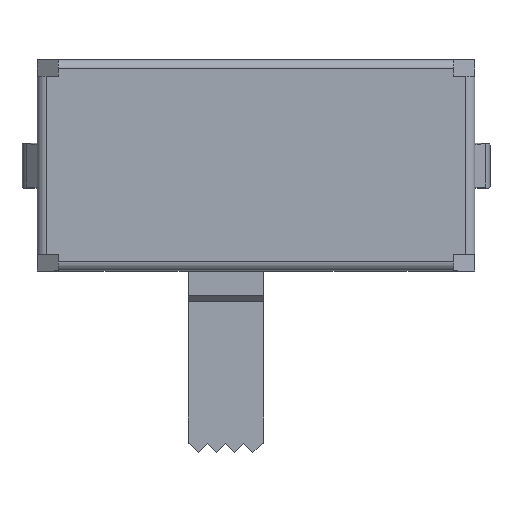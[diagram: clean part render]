
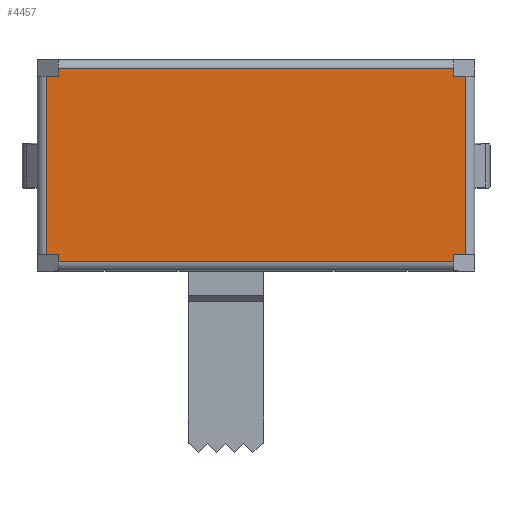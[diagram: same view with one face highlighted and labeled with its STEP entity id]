
A CAD part, top view. The second image highlights one B-rep face of the part: STEP entity #4457.
In plain terms, the highlighted planar face has unit normal (0, 0, 1).
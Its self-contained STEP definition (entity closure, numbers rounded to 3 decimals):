
#874 = DIRECTION ( 'NONE',  ( 1., 0., 0. ) ) ;
#876 = DIRECTION ( 'NONE',  ( 0., 0., 1. ) ) ;
#885 = PLANE ( 'NONE',  #3090 ) ;
#886 = CARTESIAN_POINT ( 'NONE',  ( -7.25, 3.5, 8.5 ) ) ;
#1413 = EDGE_CURVE ( 'NONE', #6359, #6302, #4198, .T. ) ;
#1414 = EDGE_CURVE ( 'NONE', #6557, #6333, #4199, .T. ) ;
#1415 = EDGE_CURVE ( 'NONE', #6333, #6307, #4205, .T. ) ;
#1422 = EDGE_CURVE ( 'NONE', #6365, #6560, #4219, .T. ) ;
#1433 = EDGE_CURVE ( 'NONE', #6302, #6313, #2848, .T. ) ;
#1434 = EDGE_CURVE ( 'NONE', #6313, #6347, #2850, .T. ) ;
#1471 = EDGE_CURVE ( 'NONE', #6307, #6580, #2908, .T. ) ;
#1476 = EDGE_CURVE ( 'NONE', #6416, #6367, #2923, .T. ) ;
#2693 = EDGE_LOOP ( 'NONE', ( #4009, #4010, #4011, #4012, #4013, #4014, #4015, #4016, #4017, #4018, #4019, #4020 ) ) ;
#2848 = LINE ( 'NONE', #6881, #2849 ) ;
#2849 = VECTOR ( 'NONE', #7376, 1000. ) ;
#2850 = LINE ( 'NONE', #7318, #2851 ) ;
#2851 = VECTOR ( 'NONE', #7309, 1000. ) ;
#2908 = LINE ( 'NONE', #7334, #2921 ) ;
#2921 = VECTOR ( 'NONE', #7323, 1000. ) ;
#2923 = LINE ( 'NONE', #7314, #2930 ) ;
#2930 = VECTOR ( 'NONE', #7308, 1000. ) ;
#3090 = AXIS2_PLACEMENT_3D ( 'NONE', #886, #876, #874 ) ;
#3809 = EDGE_CURVE ( 'NONE', #6359, #6367, #6097, .T. ) ;
#3812 = EDGE_CURVE ( 'NONE', #6365, #6347, #6103, .T. ) ;
#3894 = EDGE_CURVE ( 'NONE', #6557, #6560, #5867, .T. ) ;
#3908 = EDGE_CURVE ( 'NONE', #6416, #6580, #5889, .T. ) ;
#4009 = ORIENTED_EDGE ( 'NONE', *, *, #1422, .T. ) ;
#4010 = ORIENTED_EDGE ( 'NONE', *, *, #3894, .F. ) ;
#4011 = ORIENTED_EDGE ( 'NONE', *, *, #1414, .T. ) ;
#4012 = ORIENTED_EDGE ( 'NONE', *, *, #1415, .T. ) ;
#4013 = ORIENTED_EDGE ( 'NONE', *, *, #1471, .T. ) ;
#4014 = ORIENTED_EDGE ( 'NONE', *, *, #3908, .F. ) ;
#4015 = ORIENTED_EDGE ( 'NONE', *, *, #1476, .T. ) ;
#4016 = ORIENTED_EDGE ( 'NONE', *, *, #3809, .F. ) ;
#4017 = ORIENTED_EDGE ( 'NONE', *, *, #1413, .T. ) ;
#4018 = ORIENTED_EDGE ( 'NONE', *, *, #1433, .T. ) ;
#4019 = ORIENTED_EDGE ( 'NONE', *, *, #1434, .T. ) ;
#4020 = ORIENTED_EDGE ( 'NONE', *, *, #3812, .F. ) ;
#4198 = LINE ( 'NONE', #6295, #4202 ) ;
#4199 = LINE ( 'NONE', #6622, #4203 ) ;
#4202 = VECTOR ( 'NONE', #6294, 1000. ) ;
#4203 = VECTOR ( 'NONE', #6293, 1000. ) ;
#4205 = LINE ( 'NONE', #6292, #4206 ) ;
#4206 = VECTOR ( 'NONE', #6291, 1000. ) ;
#4219 = LINE ( 'NONE', #6278, #4220 ) ;
#4220 = VECTOR ( 'NONE', #6277, 1000. ) ;
#4332 = FACE_OUTER_BOUND ( 'NONE', #2693, .T. ) ;
#4457 = ADVANCED_FACE ( 'NONE', ( #4332 ), #885, .T. ) ;
#4781 = CARTESIAN_POINT ( 'NONE',  ( 6.55, 3.2, 8.5 ) ) ;
#4902 = CARTESIAN_POINT ( 'NONE',  ( -6.55, 3.2, 8.5 ) ) ;
#4907 = CARTESIAN_POINT ( 'NONE',  ( -6.55, -3.2, 8.5 ) ) ;
#4921 = CARTESIAN_POINT ( 'NONE',  ( -6.55, 2.95, 8.5 ) ) ;
#4951 = CARTESIAN_POINT ( 'NONE',  ( -6.55, -2.95, 8.5 ) ) ;
#4985 = CARTESIAN_POINT ( 'NONE',  ( 6.95, -2.95, 8.5 ) ) ;
#5032 = CARTESIAN_POINT ( 'NONE',  ( -6.95, -2.95, 8.5 ) ) ;
#5047 = CARTESIAN_POINT ( 'NONE',  ( 6.95, 2.95, 8.5 ) ) ;
#5106 = CARTESIAN_POINT ( 'NONE',  ( -6.95, 2.95, 8.5 ) ) ;
#5370 = CARTESIAN_POINT ( 'NONE',  ( 6.55, 2.95, 8.5 ) ) ;
#5398 = CARTESIAN_POINT ( 'NONE',  ( 6.55, -3.2, 8.5 ) ) ;
#5403 = CARTESIAN_POINT ( 'NONE',  ( 6.55, -2.95, 8.5 ) ) ;
#5867 = LINE ( 'NONE', #6895, #5868 ) ;
#5868 = VECTOR ( 'NONE', #6893, 1000. ) ;
#5885 = VECTOR ( 'NONE', #6879, 1000. ) ;
#5889 = LINE ( 'NONE', #6858, #5885 ) ;
#6086 = VECTOR ( 'NONE', #7107, 1000. ) ;
#6097 = LINE ( 'NONE', #7115, #6086 ) ;
#6103 = LINE ( 'NONE', #7100, #6104 ) ;
#6104 = VECTOR ( 'NONE', #7099, 1000. ) ;
#6277 = DIRECTION ( 'NONE',  ( 1., 0., 0. ) ) ;
#6278 = CARTESIAN_POINT ( 'NONE',  ( -7.25, -3.2, 8.5 ) ) ;
#6291 = DIRECTION ( 'NONE',  ( 0., 1., 0. ) ) ;
#6292 = CARTESIAN_POINT ( 'NONE',  ( 6.95, 3.5, 8.5 ) ) ;
#6293 = DIRECTION ( 'NONE',  ( 1., 0., 0. ) ) ;
#6294 = DIRECTION ( 'NONE',  ( -1., 0., 0. ) ) ;
#6295 = CARTESIAN_POINT ( 'NONE',  ( -7.25, 2.95, 8.5 ) ) ;
#6302 = VERTEX_POINT ( 'NONE', #5106 ) ;
#6307 = VERTEX_POINT ( 'NONE', #5047 ) ;
#6313 = VERTEX_POINT ( 'NONE', #5032 ) ;
#6333 = VERTEX_POINT ( 'NONE', #4985 ) ;
#6347 = VERTEX_POINT ( 'NONE', #4951 ) ;
#6359 = VERTEX_POINT ( 'NONE', #4921 ) ;
#6365 = VERTEX_POINT ( 'NONE', #4907 ) ;
#6367 = VERTEX_POINT ( 'NONE', #4902 ) ;
#6416 = VERTEX_POINT ( 'NONE', #4781 ) ;
#6557 = VERTEX_POINT ( 'NONE', #5403 ) ;
#6560 = VERTEX_POINT ( 'NONE', #5398 ) ;
#6580 = VERTEX_POINT ( 'NONE', #5370 ) ;
#6622 = CARTESIAN_POINT ( 'NONE',  ( -7.25, -2.95, 8.5 ) ) ;
#6858 = CARTESIAN_POINT ( 'NONE',  ( 6.55, 3., 8.5 ) ) ;
#6879 = DIRECTION ( 'NONE',  ( 0., -1., 0. ) ) ;
#6881 = CARTESIAN_POINT ( 'NONE',  ( -6.95, 3.5, 8.5 ) ) ;
#6893 = DIRECTION ( 'NONE',  ( 0., -1., 0. ) ) ;
#6895 = CARTESIAN_POINT ( 'NONE',  ( 6.55, 3., 8.5 ) ) ;
#7099 = DIRECTION ( 'NONE',  ( 0., 1., 0. ) ) ;
#7100 = CARTESIAN_POINT ( 'NONE',  ( -6.55, 3., 8.5 ) ) ;
#7107 = DIRECTION ( 'NONE',  ( 0., 1., 0. ) ) ;
#7115 = CARTESIAN_POINT ( 'NONE',  ( -6.55, 3., 8.5 ) ) ;
#7308 = DIRECTION ( 'NONE',  ( -1., 0., 0. ) ) ;
#7309 = DIRECTION ( 'NONE',  ( 1., 0., 0. ) ) ;
#7314 = CARTESIAN_POINT ( 'NONE',  ( -7.25, 3.2, 8.5 ) ) ;
#7318 = CARTESIAN_POINT ( 'NONE',  ( -7.25, -2.95, 8.5 ) ) ;
#7323 = DIRECTION ( 'NONE',  ( -1., 0., 0. ) ) ;
#7334 = CARTESIAN_POINT ( 'NONE',  ( -7.25, 2.95, 8.5 ) ) ;
#7376 = DIRECTION ( 'NONE',  ( 0., -1., 0. ) ) ;
